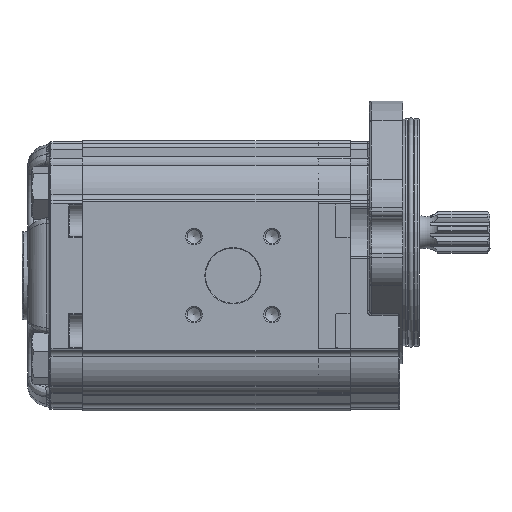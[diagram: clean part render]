
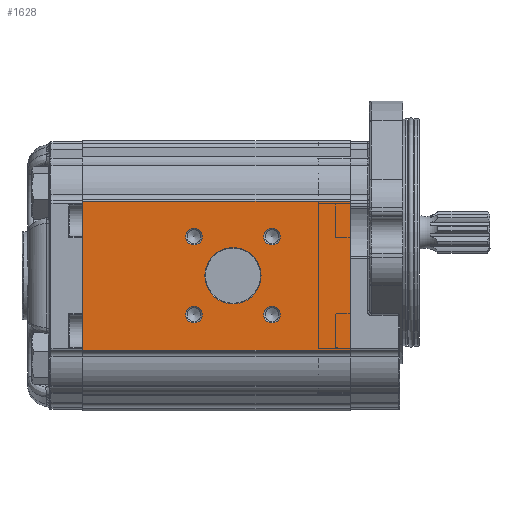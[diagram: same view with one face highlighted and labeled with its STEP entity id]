
A CAD part, left-side view. The second image highlights one B-rep face of the part: STEP entity #1628.
In plain terms, the highlighted planar face has unit normal (-1, 0, 0).
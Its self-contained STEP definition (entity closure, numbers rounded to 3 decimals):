
#1628 = ADVANCED_FACE( '', ( #4664, #4665, #4666, #4667, #4668, #4669 ), #4670, .T. );
#4664 = FACE_BOUND( '', #9540, .T. );
#4665 = FACE_BOUND( '', #9541, .T. );
#4666 = FACE_BOUND( '', #9542, .T. );
#4667 = FACE_BOUND( '', #9543, .T. );
#4668 = FACE_BOUND( '', #9544, .T. );
#4669 = FACE_OUTER_BOUND( '', #9545, .T. );
#4670 = PLANE( '', #9546 );
#9540 = EDGE_LOOP( '', ( #18290 ) );
#9541 = EDGE_LOOP( '', ( #18291 ) );
#9542 = EDGE_LOOP( '', ( #18292 ) );
#9543 = EDGE_LOOP( '', ( #18293 ) );
#9544 = EDGE_LOOP( '', ( #18294 ) );
#9545 = EDGE_LOOP( '', ( #18295, #18296, #18297, #18298 ) );
#9546 = AXIS2_PLACEMENT_3D( '', #18299, #18300, #18301 );
#18290 = ORIENTED_EDGE( '', *, *, #31329, .T. );
#18291 = ORIENTED_EDGE( '', *, *, #31330, .T. );
#18292 = ORIENTED_EDGE( '', *, *, #31331, .T. );
#18293 = ORIENTED_EDGE( '', *, *, #31332, .T. );
#18294 = ORIENTED_EDGE( '', *, *, #31333, .T. );
#18295 = ORIENTED_EDGE( '', *, *, #31334, .F. );
#18296 = ORIENTED_EDGE( '', *, *, #31335, .F. );
#18297 = ORIENTED_EDGE( '', *, *, #31336, .T. );
#18298 = ORIENTED_EDGE( '', *, *, #31337, .T. );
#18299 = CARTESIAN_POINT( '', ( -43., 97., 27.048 ) );
#18300 = DIRECTION( '', ( -1., 0., 0. ) );
#18301 = DIRECTION( '', ( 0., 0., 1. ) );
#31329 = EDGE_CURVE( '', #36681, #36681, #36682, .F. );
#31330 = EDGE_CURVE( '', #36683, #36683, #36684, .F. );
#31331 = EDGE_CURVE( '', #36685, #36685, #36686, .F. );
#31332 = EDGE_CURVE( '', #36687, #36687, #36688, .F. );
#31333 = EDGE_CURVE( '', #36689, #36689, #36690, .F. );
#31334 = EDGE_CURVE( '', #36691, #36692, #36693, .T. );
#31335 = EDGE_CURVE( '', #36694, #36691, #36695, .T. );
#31336 = EDGE_CURVE( '', #36694, #36696, #36697, .T. );
#31337 = EDGE_CURVE( '', #36696, #36692, #36698, .T. );
#36681 = VERTEX_POINT( '', #44934 );
#36682 = CIRCLE( '', #44935, 10.2 );
#36683 = VERTEX_POINT( '', #44936 );
#36684 = CIRCLE( '', #44937, 3. );
#36685 = VERTEX_POINT( '', #44938 );
#36686 = CIRCLE( '', #44939, 3. );
#36687 = VERTEX_POINT( '', #44940 );
#36688 = CIRCLE( '', #44941, 3. );
#36689 = VERTEX_POINT( '', #44942 );
#36690 = CIRCLE( '', #44943, 3. );
#36691 = VERTEX_POINT( '', #44944 );
#36692 = VERTEX_POINT( '', #44945 );
#36693 = LINE( '', #44946, #44947 );
#36694 = VERTEX_POINT( '', #44948 );
#36695 = LINE( '', #44949, #44950 );
#36696 = VERTEX_POINT( '', #44951 );
#36697 = LINE( '', #44952, #44953 );
#36698 = LINE( '', #44954, #44955 );
#44934 = CARTESIAN_POINT( '', ( -43., 42.5, 10.2 ) );
#44935 = AXIS2_PLACEMENT_3D( '', #60340, #60341, #60342 );
#44936 = CARTESIAN_POINT( '', ( -43., 56.642, -11.142 ) );
#44937 = AXIS2_PLACEMENT_3D( '', #60343, #60344, #60345 );
#44938 = CARTESIAN_POINT( '', ( -43., 56.642, 17.142 ) );
#44939 = AXIS2_PLACEMENT_3D( '', #60346, #60347, #60348 );
#44940 = CARTESIAN_POINT( '', ( -43., 28.358, 17.142 ) );
#44941 = AXIS2_PLACEMENT_3D( '', #60349, #60350, #60351 );
#44942 = CARTESIAN_POINT( '', ( -43., 28.358, -11.142 ) );
#44943 = AXIS2_PLACEMENT_3D( '', #60352, #60353, #60354 );
#44944 = CARTESIAN_POINT( '', ( -43., 0., 27.048 ) );
#44945 = CARTESIAN_POINT( '', ( -43., 0., -27.048 ) );
#44946 = CARTESIAN_POINT( '', ( -43., 0., 27.048 ) );
#44947 = VECTOR( '', #60355, 1000. );
#44948 = CARTESIAN_POINT( '', ( -43., 97., 27.048 ) );
#44949 = CARTESIAN_POINT( '', ( -43., 97., 27.048 ) );
#44950 = VECTOR( '', #60356, 1000. );
#44951 = CARTESIAN_POINT( '', ( -43., 97., -27.048 ) );
#44952 = CARTESIAN_POINT( '', ( -43., 97., 27.048 ) );
#44953 = VECTOR( '', #60357, 1000. );
#44954 = CARTESIAN_POINT( '', ( -43., 97., -27.048 ) );
#44955 = VECTOR( '', #60358, 1000. );
#60340 = CARTESIAN_POINT( '', ( -43., 42.5, 0. ) );
#60341 = DIRECTION( '', ( -1., 0., 0. ) );
#60342 = DIRECTION( '', ( 0., 0., 1. ) );
#60343 = CARTESIAN_POINT( '', ( -43., 56.642, -14.142 ) );
#60344 = DIRECTION( '', ( -1., 0., 0. ) );
#60345 = DIRECTION( '', ( 0., 0., 1. ) );
#60346 = CARTESIAN_POINT( '', ( -43., 56.642, 14.142 ) );
#60347 = DIRECTION( '', ( -1., 0., 0. ) );
#60348 = DIRECTION( '', ( 0., 0., 1. ) );
#60349 = CARTESIAN_POINT( '', ( -43., 28.358, 14.142 ) );
#60350 = DIRECTION( '', ( -1., 0., 0. ) );
#60351 = DIRECTION( '', ( 0., 0., 1. ) );
#60352 = CARTESIAN_POINT( '', ( -43., 28.358, -14.142 ) );
#60353 = DIRECTION( '', ( -1., 0., 0. ) );
#60354 = DIRECTION( '', ( 0., 0., 1. ) );
#60355 = DIRECTION( '', ( 0., 0., -1. ) );
#60356 = DIRECTION( '', ( 0., -1., 0. ) );
#60357 = DIRECTION( '', ( 0., 0., -1. ) );
#60358 = DIRECTION( '', ( 0., -1., 0. ) );
